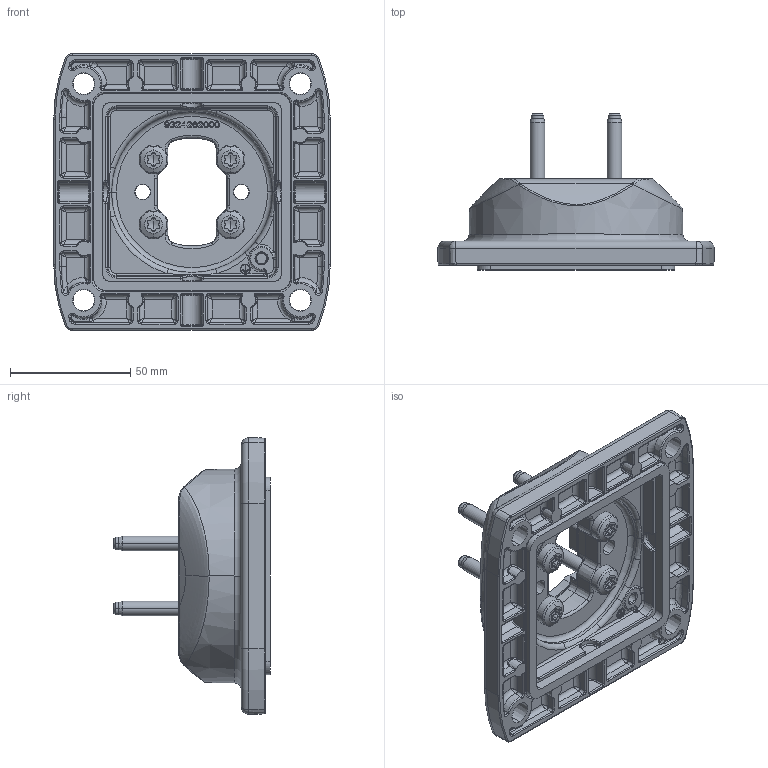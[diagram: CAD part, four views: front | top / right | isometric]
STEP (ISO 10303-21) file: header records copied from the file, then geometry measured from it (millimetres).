
FILE_DESCRIPTION((''),'2;1');
FILE_NAME('1015500023_ASM','2024-03-20T14:38:16',('dirk.bredemeier'),(''),'CREO PARAMETRIC BY PTC INC, 2022124','CREO PARAMETRIC BY PTC INC, 2022124','');
FILE_SCHEMA(('AUTOMOTIVE_DESIGN { 1 0 10303 214 1 1 1 1 }'));
Length unit declared in the file: millimetre
Products named in the file (7): 9324262000_AF2; 9620510000_ASM; 9641000010_ASM; 9231841000; 9231844000; 9261655000; 1015500023_ASM
Assembly tree (9 placements, depth 4):
  1015500023_ASM
    9641000010_ASM
      9620510000_ASM
        9324262000_AF2
    9231841000
    9231844000
    9261655000  x4
Bounding box: 114.89 x 65 x 114.89 mm (x, y, z)
Volume: 168431.3 mm3; surface area: 60824.7 mm2
Topology: 7 solids, 7 shells, 1917 faces, 4679 edges, 2817 vertices
Faces by surface type: plane 641, cylinder 463, bspline 460, cone 166, torus 153, sphere 34
Entity records: 88539 total; most frequent: CARTESIAN_POINT 36271, ORIENTED_EDGE 8658, DIRECTION 7312, PRESENTATION_STYLE_ASSIGNMENT 4333, STYLED_ITEM 4333, CURVE_STYLE 4329, EDGE_CURVE 4329, VERTEX_POINT 2598
